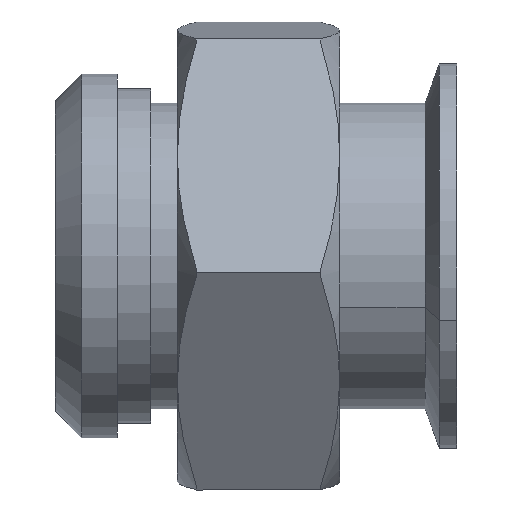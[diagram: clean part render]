
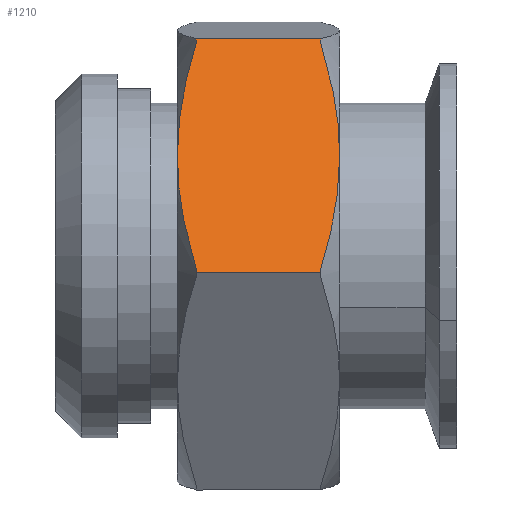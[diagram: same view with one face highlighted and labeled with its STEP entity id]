
A CAD part, front view. The second image highlights one B-rep face of the part: STEP entity #1210.
In plain terms, the highlighted planar face has unit normal (0, -0.897, 0.443) as drawn and (0.443, -0.897, 0) by its records, which use the part's own axes.
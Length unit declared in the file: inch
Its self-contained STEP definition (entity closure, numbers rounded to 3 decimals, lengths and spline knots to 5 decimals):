
#53 = CARTESIAN_POINT ( 'NONE',  ( 0.81228, -1.24842, 1.05622 ) ) ;
#207 = LINE ( 'NONE', #1707, #5790 ) ;
#265 = VECTOR ( 'NONE', #4688, 39.37008 ) ;
#296 = VERTEX_POINT ( 'NONE', #1244 ) ;
#350 = CARTESIAN_POINT ( 'NONE',  ( -0.11102, -1.70419, 0.125 ) ) ;
#352 = CARTESIAN_POINT ( 'NONE',  ( -0.08873, -1.69318, 0.937 ) ) ;
#359 = ORIENTED_EDGE ( 'NONE', *, *, #451, .T. ) ;
#407 = EDGE_CURVE ( 'NONE', #2532, #6072, #3907, .T. ) ;
#422 = CARTESIAN_POINT ( 'NONE',  ( 0.15564, -1.57255, 1.00678 ) ) ;
#451 = EDGE_CURVE ( 'NONE', #2532, #3080, #4812, .T. ) ;
#463 = DIRECTION ( 'NONE',  ( 0.897, 0.443, 0. ) ) ;
#478 = CARTESIAN_POINT ( 'NONE',  ( 0.03265, -1.63327, 0.08679 ) ) ;
#579 = CARTESIAN_POINT ( 'NONE',  ( 1.42036, -0.94824, 0.125 ) ) ;
#587 = PLANE ( 'NONE',  #6071 ) ;
#618 = CARTESIAN_POINT ( 'NONE',  ( -0.11102, -1.70419, 1.062 ) ) ;
#667 = B_SPLINE_CURVE_WITH_KNOTS ( 'NONE', 3,
 ( #1845, #5283, #2827, #3892, #2448, #939, #5822, #2317, #478, #3795 ),
 .UNSPECIFIED., .F., .F.,
 ( 4, 2, 2, 2, 4 ),
 ( 0.02129, 0.02394, 0.02659, 0.03189, 0.04249 ),
 .UNSPECIFIED. ) ;
#782 = CARTESIAN_POINT ( 'NONE',  ( 1.42036, -0.94824, 0.937 ) ) ;
#835 = CARTESIAN_POINT ( 'NONE',  ( 0.65467, -1.32622, 0. ) ) ;
#878 = CARTESIAN_POINT ( 'NONE',  ( 0.90611, -1.2021, 0.01182 ) ) ;
#888 = EDGE_CURVE ( 'NONE', #2750, #2723, #6208, .T. ) ;
#939 = CARTESIAN_POINT ( 'NONE',  ( 0.40304, -1.45043, 0.01431 ) ) ;
#1059 = EDGE_CURVE ( 'NONE', #2723, #3182, #3597, .T. ) ;
#1168 = CARTESIAN_POINT ( 'NONE',  ( 0.71774, -1.29508, 1.06127 ) ) ;
#1193 = CARTESIAN_POINT ( 'NONE',  ( -0.08873, -1.69318, 0.937 ) ) ;
#1210 = ADVANCED_FACE ( 'NONE', ( #5899 ), #587, .F. ) ;
#1216 = CARTESIAN_POINT ( 'NONE',  ( -0.11102, -1.70419, 0.125 ) ) ;
#1244 = CARTESIAN_POINT ( 'NONE',  ( -0.08873, -1.69318, 0.125 ) ) ;
#1281 = EDGE_CURVE ( 'NONE', #5617, #2750, #6218, .T. ) ;
#1382 = ORIENTED_EDGE ( 'NONE', *, *, #888, .F. ) ;
#1632 = B_SPLINE_CURVE_WITH_KNOTS ( 'NONE', 3,
 ( #4027, #5065, #1168, #6019, #53, #1662, #3590, #2510, #4472, #3110 ),
 .UNSPECIFIED., .F., .F.,
 ( 4, 2, 2, 2, 4 ),
 ( 0.02129, 0.02394, 0.02659, 0.03189, 0.04249 ),
 .UNSPECIFIED. ) ;
#1662 = CARTESIAN_POINT ( 'NONE',  ( 0.90629, -1.202, 1.04769 ) ) ;
#1707 = CARTESIAN_POINT ( 'NONE',  ( -0.11102, -1.70419, 0.125 ) ) ;
#1746 = EDGE_LOOP ( 'NONE', ( #1382, #2531, #4117, #2652, #5978, #2880, #359, #5434, #5168, #3983 ) ) ;
#1845 = CARTESIAN_POINT ( 'NONE',  ( 0.65467, -1.32622, 0. ) ) ;
#1902 = CARTESIAN_POINT ( 'NONE',  ( 1.39806, -0.95925, 0.937 ) ) ;
#2088 = CARTESIAN_POINT ( 'NONE',  ( -0.11102, -1.70419, 0.937 ) ) ;
#2317 = CARTESIAN_POINT ( 'NONE',  ( 0.15504, -1.57285, 0.05536 ) ) ;
#2448 = CARTESIAN_POINT ( 'NONE',  ( 0.49706, -1.40402, 0.00578 ) ) ;
#2503 = EDGE_CURVE ( 'NONE', #3704, #5617, #4993, .T. ) ;
#2510 = CARTESIAN_POINT ( 'NONE',  ( 1.1543, -1.07958, 1.00664 ) ) ;
#2522 = DIRECTION ( 'NONE',  ( -0.443, 0.897, 0. ) ) ;
#2531 = ORIENTED_EDGE ( 'NONE', *, *, #1281, .F. ) ;
#2532 = VERTEX_POINT ( 'NONE', #5497 ) ;
#2622 = EDGE_CURVE ( 'NONE', #3182, #296, #667, .T. ) ;
#2652 = ORIENTED_EDGE ( 'NONE', *, *, #5894, .F. ) ;
#2723 = VERTEX_POINT ( 'NONE', #4910 ) ;
#2750 = VERTEX_POINT ( 'NONE', #579 ) ;
#2827 = CARTESIAN_POINT ( 'NONE',  ( 0.59159, -1.35735, 0.00073 ) ) ;
#2829 = CARTESIAN_POINT ( 'NONE',  ( 0.78111, -1.2638, 0. ) ) ;
#2880 = ORIENTED_EDGE ( 'NONE', *, *, #407, .F. ) ;
#3080 = VERTEX_POINT ( 'NONE', #1216 ) ;
#3110 = CARTESIAN_POINT ( 'NONE',  ( 1.39806, -0.95925, 0.937 ) ) ;
#3182 = VERTEX_POINT ( 'NONE', #835 ) ;
#3290 = B_SPLINE_CURVE_WITH_KNOTS ( 'NONE', 3,
 ( #352, #4319, #422, #4788, #4753, #3763 ),
 .UNSPECIFIED., .F., .F.,
 ( 4, 2, 4 ),
 ( 0., 0.01065, 0.02129 ),
 .UNSPECIFIED. ) ;
#3360 = CARTESIAN_POINT ( 'NONE',  ( -0.11102, -1.70419, 1.062 ) ) ;
#3561 = EDGE_CURVE ( 'NONE', #296, #3080, #207, .T. ) ;
#3590 = CARTESIAN_POINT ( 'NONE',  ( 0.96856, -1.17127, 1.03925 ) ) ;
#3597 = B_SPLINE_CURVE_WITH_KNOTS ( 'NONE', 3,
 ( #4281, #5730, #5254, #878, #2829, #4405 ),
 .UNSPECIFIED., .F., .F.,
 ( 4, 2, 4 ),
 ( 0., 0.01065, 0.02129 ),
 .UNSPECIFIED. ) ;
#3704 = VERTEX_POINT ( 'NONE', #1902 ) ;
#3720 = VECTOR ( 'NONE', #3890, 39.37008 ) ;
#3763 = CARTESIAN_POINT ( 'NONE',  ( 0.65467, -1.32622, 1.062 ) ) ;
#3770 = DIRECTION ( 'NONE',  ( 0., 0., -1. ) ) ;
#3795 = CARTESIAN_POINT ( 'NONE',  ( -0.08873, -1.69318, 0.125 ) ) ;
#3844 = CARTESIAN_POINT ( 'NONE',  ( -0.11102, -1.70419, 0.937 ) ) ;
#3890 = DIRECTION ( 'NONE',  ( 0., 0., -1. ) ) ;
#3892 = CARTESIAN_POINT ( 'NONE',  ( 0.5285, -1.3885, 0.00362 ) ) ;
#3907 = LINE ( 'NONE', #3844, #5458 ) ;
#3983 = ORIENTED_EDGE ( 'NONE', *, *, #1059, .F. ) ;
#4027 = CARTESIAN_POINT ( 'NONE',  ( 0.65467, -1.32622, 1.062 ) ) ;
#4047 = DIRECTION ( 'NONE',  ( 0.897, 0.443, 0. ) ) ;
#4117 = ORIENTED_EDGE ( 'NONE', *, *, #2503, .F. ) ;
#4281 = CARTESIAN_POINT ( 'NONE',  ( 1.39806, -0.95925, 0.125 ) ) ;
#4319 = CARTESIAN_POINT ( 'NONE',  ( 0.03304, -1.63308, 0.97533 ) ) ;
#4405 = CARTESIAN_POINT ( 'NONE',  ( 0.65467, -1.32622, 0. ) ) ;
#4472 = CARTESIAN_POINT ( 'NONE',  ( 1.27668, -1.01917, 0.97521 ) ) ;
#4484 = DIRECTION ( 'NONE',  ( -0.897, -0.443, 0. ) ) ;
#4654 = VECTOR ( 'NONE', #3770, 39.37008 ) ;
#4688 = DIRECTION ( 'NONE',  ( -0.897, -0.443, 0. ) ) ;
#4753 = CARTESIAN_POINT ( 'NONE',  ( 0.52823, -1.38863, 1.062 ) ) ;
#4788 = CARTESIAN_POINT ( 'NONE',  ( 0.40323, -1.45034, 1.05018 ) ) ;
#4812 = LINE ( 'NONE', #3360, #3720 ) ;
#4910 = CARTESIAN_POINT ( 'NONE',  ( 1.39806, -0.95925, 0.125 ) ) ;
#4993 = LINE ( 'NONE', #2088, #5689 ) ;
#5046 = EDGE_CURVE ( 'NONE', #6072, #6216, #3290, .T. ) ;
#5065 = CARTESIAN_POINT ( 'NONE',  ( 0.68613, -1.31068, 1.062 ) ) ;
#5168 = ORIENTED_EDGE ( 'NONE', *, *, #2622, .F. ) ;
#5254 = CARTESIAN_POINT ( 'NONE',  ( 1.1537, -1.07988, 0.05522 ) ) ;
#5283 = CARTESIAN_POINT ( 'NONE',  ( 0.62321, -1.34175, 0. ) ) ;
#5434 = ORIENTED_EDGE ( 'NONE', *, *, #3561, .F. ) ;
#5458 = VECTOR ( 'NONE', #463, 39.37008 ) ;
#5497 = CARTESIAN_POINT ( 'NONE',  ( -0.11102, -1.70419, 0.937 ) ) ;
#5617 = VERTEX_POINT ( 'NONE', #782 ) ;
#5680 = CARTESIAN_POINT ( 'NONE',  ( 1.42036, -0.94824, 1.062 ) ) ;
#5689 = VECTOR ( 'NONE', #4047, 39.37008 ) ;
#5730 = CARTESIAN_POINT ( 'NONE',  ( 1.2763, -1.01936, 0.08667 ) ) ;
#5790 = VECTOR ( 'NONE', #6091, 39.37008 ) ;
#5822 = CARTESIAN_POINT ( 'NONE',  ( 0.34077, -1.48117, 0.02275 ) ) ;
#5840 = CARTESIAN_POINT ( 'NONE',  ( 0.65467, -1.32622, 1.062 ) ) ;
#5894 = EDGE_CURVE ( 'NONE', #6216, #3704, #1632, .T. ) ;
#5899 = FACE_OUTER_BOUND ( 'NONE', #1746, .T. ) ;
#5978 = ORIENTED_EDGE ( 'NONE', *, *, #5046, .F. ) ;
#6019 = CARTESIAN_POINT ( 'NONE',  ( 0.78084, -1.26394, 1.05838 ) ) ;
#6071 = AXIS2_PLACEMENT_3D ( 'NONE', #618, #2522, #4484 ) ;
#6072 = VERTEX_POINT ( 'NONE', #1193 ) ;
#6091 = DIRECTION ( 'NONE',  ( -0.897, -0.443, 0. ) ) ;
#6208 = LINE ( 'NONE', #350, #265 ) ;
#6216 = VERTEX_POINT ( 'NONE', #5840 ) ;
#6218 = LINE ( 'NONE', #5680, #4654 ) ;
